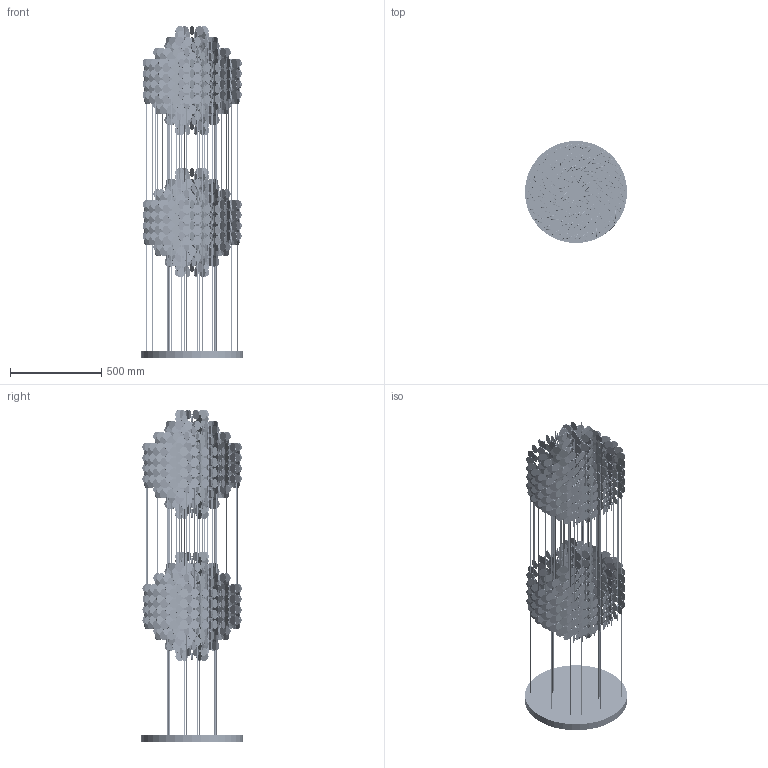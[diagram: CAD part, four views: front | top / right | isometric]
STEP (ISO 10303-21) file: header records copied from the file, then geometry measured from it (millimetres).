
FILE_DESCRIPTION (( 'STEP AP214' ), '1' );
FILE_NAME ('FUN 5 DM & 5DA assembly.STEP', '2013-01-07T19:49:40', ( '' ), ( '' ), 'SwSTEP 2.0', 'SolidWorks 2013', '' );
FILE_SCHEMA (( 'AUTOMOTIVE_DESIGN' ));
Length unit declared in the file: millimetre
Products named in the file (10): Line 602; Line 577; Line 544.5; Line 519.5; Line 487; Line 461; Line 429.5; Line 404.5; Upper plate ø560; FUN 5 DM & 5DA assembly
Assembly tree (147 placements, depth 2):
  FUN 5 DM & 5DA assembly
    Upper plate ø560
    Line 404.5  x10
    Line 429.5  x10
    Line 461  x16
    Line 487  x16
    Line 519.5  x20
    Line 544.5  x20
    Line 577  x27
    Line 602  x27
Bounding box: 560 x 560 x 1819 mm (x, y, z)
Volume: 13685824.5 mm3; surface area: 8644883.9 mm2
Topology: 2117 solids, 2117 shells, 8870 faces, 13506 edges, 9004 vertices
Faces by surface type: cylinder 4502, plane 4368
Entity records: 24936 total; most frequent: DIRECTION 4766, CARTESIAN_POINT 3698, ORIENTED_EDGE 3156, AXIS2_PLACEMENT_3D 2120, EDGE_CURVE 1578, VERTEX_POINT 1052, CIRCLE 1052, EDGE_LOOP 1052
